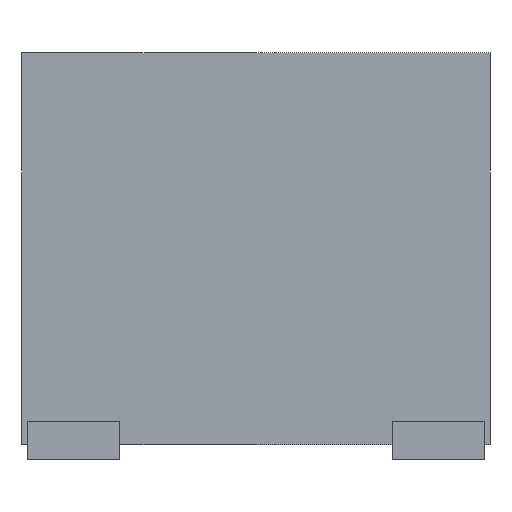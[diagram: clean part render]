
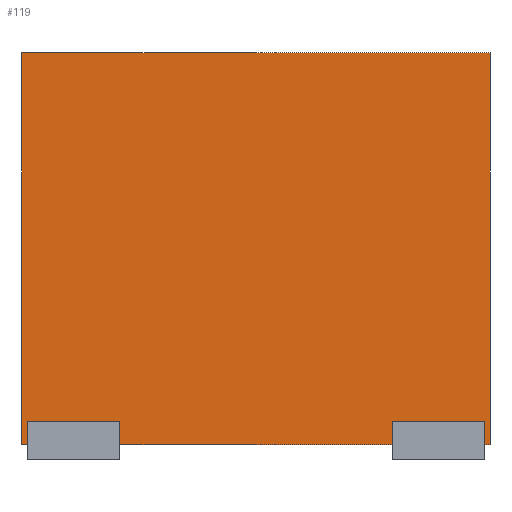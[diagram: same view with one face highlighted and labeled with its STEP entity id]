
A CAD part, left-side view. The second image highlights one B-rep face of the part: STEP entity #119.
In plain terms, the highlighted planar face has unit normal (-1, 0, 0).
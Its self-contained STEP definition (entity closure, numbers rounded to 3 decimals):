
#21 = EDGE_CURVE('',#22,#24,#26,.T.);
#22 = VERTEX_POINT('',#23);
#23 = CARTESIAN_POINT('',(-2.25,-1.6,0.12));
#24 = VERTEX_POINT('',#25);
#25 = CARTESIAN_POINT('',(-2.25,-1.6,2.8));
#26 = LINE('',#27,#28);
#27 = CARTESIAN_POINT('',(-2.25,-1.6,0.12));
#28 = VECTOR('',#29,1.);
#29 = DIRECTION('',(0.,0.,1.));
#94 = VERTEX_POINT('',#95);
#95 = CARTESIAN_POINT('',(-2.25,1.6,2.8));
#101 = EDGE_CURVE('',#102,#94,#104,.T.);
#102 = VERTEX_POINT('',#103);
#103 = CARTESIAN_POINT('',(-2.25,1.6,0.12));
#104 = LINE('',#105,#106);
#105 = CARTESIAN_POINT('',(-2.25,1.6,0.12));
#106 = VECTOR('',#107,1.);
#107 = DIRECTION('',(0.,0.,1.));
#119 = ADVANCED_FACE('',(#120),#136,.F.);
#120 = FACE_BOUND('',#121,.F.);
#121 = EDGE_LOOP('',(#122,#123,#129,#130));
#122 = ORIENTED_EDGE('',*,*,#101,.T.);
#123 = ORIENTED_EDGE('',*,*,#124,.T.);
#124 = EDGE_CURVE('',#94,#24,#125,.T.);
#125 = LINE('',#126,#127);
#126 = CARTESIAN_POINT('',(-2.25,1.6,2.8));
#127 = VECTOR('',#128,1.);
#128 = DIRECTION('',(0.,-1.,0.));
#129 = ORIENTED_EDGE('',*,*,#21,.F.);
#130 = ORIENTED_EDGE('',*,*,#131,.F.);
#131 = EDGE_CURVE('',#102,#22,#132,.T.);
#132 = LINE('',#133,#134);
#133 = CARTESIAN_POINT('',(-2.25,1.6,0.12));
#134 = VECTOR('',#135,1.);
#135 = DIRECTION('',(0.,-1.,0.));
#136 = PLANE('',#137);
#137 = AXIS2_PLACEMENT_3D('',#138,#139,#140);
#138 = CARTESIAN_POINT('',(-2.25,1.6,0.12));
#139 = DIRECTION('',(1.,0.,-0.));
#140 = DIRECTION('',(0.,-1.,0.));
